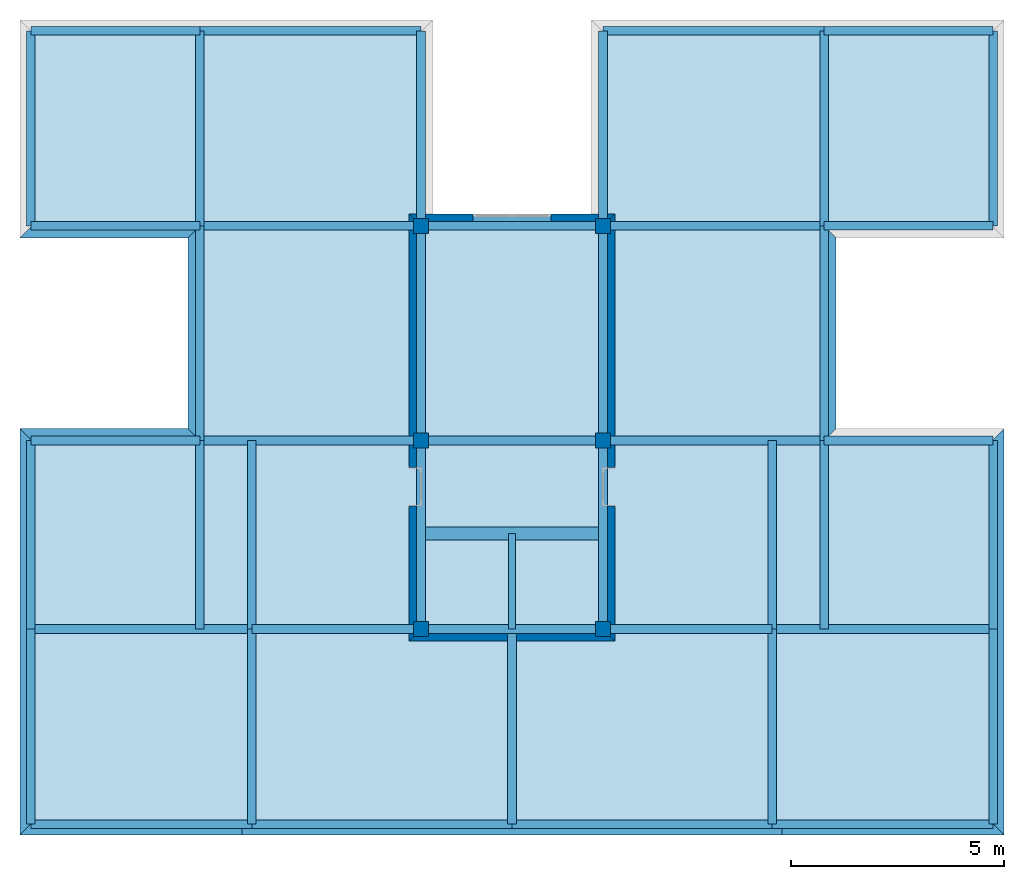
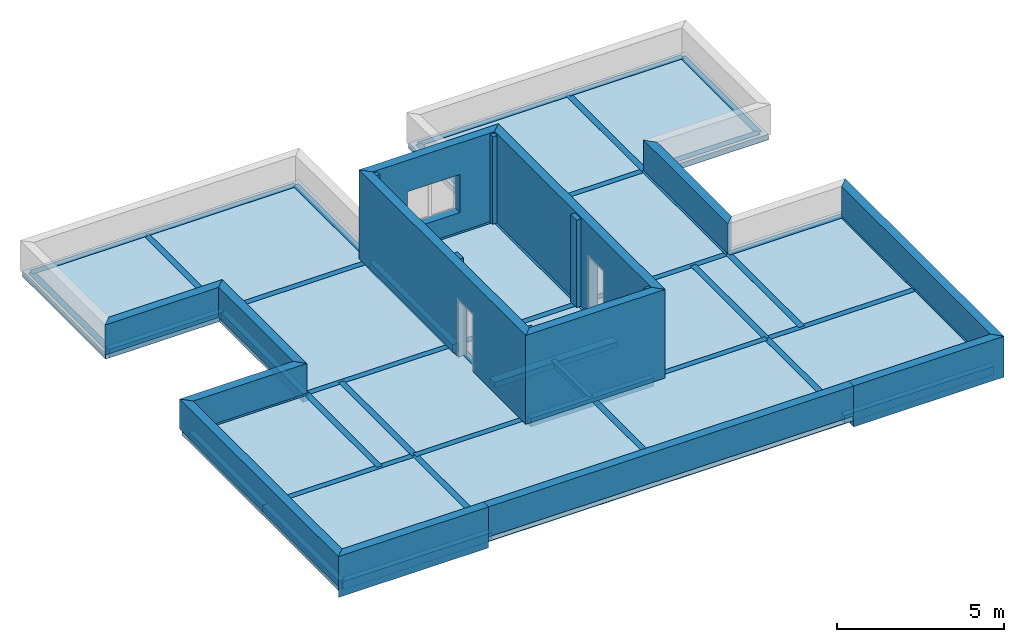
# One storey, part 1 of 3: 48 beams, 13 walls, 6 columns, 1 slab, 3 openings.
"""IFC2X3 building model written with IfcOpenShell, lengths in millimetres."""

from ifc_helpers import new_model, entity, si_unit, converted_unit, direction, frame, frame_2d, origin_with_axes, origin_2d_with_axis, place, context, subcontext, project, spatial, polyline, rectangle, outline, extrude, material, layer, layer_set, layer_usage, type_object, element, save


model = new_model("IFC2X3")

# Units and contexts
model_context = context("Model", 3, precision=1e-05, world=origin_with_axes(), true_north=direction((0.0, 1.0)))
body_context = subcontext(model_context, "Body", "Model", "MODEL_VIEW")
ifc_project = project(units=[si_unit("LENGTHUNIT", "METRE", prefix="MILLI"), si_unit("AREAUNIT", "SQUARE_METRE"), si_unit("VOLUMEUNIT", "CUBIC_METRE"), converted_unit("PLANEANGLEUNIT", "DEGREE", entity("IfcPlaneAngleMeasure", 0.017453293), si_unit("PLANEANGLEUNIT", "RADIAN"), dimensions=[0, 0, 0, 0, 0, 0, 0]), si_unit("SOLIDANGLEUNIT", "STERADIAN"), si_unit("MASSUNIT", "GRAM"), si_unit("TIMEUNIT", "SECOND"), si_unit("THERMODYNAMICTEMPERATUREUNIT", "DEGREE_CELSIUS"), si_unit("LUMINOUSINTENSITYUNIT", "LUMEN")], contexts=[model_context])

# Site, building, storey
site_placement = place(None, origin_with_axes())
site = spatial("IfcSite", under=ifc_project, at=site_placement, Name="Sitio", CompositionType="ELEMENT")
building_placement = place(site_placement, origin_with_axes())
building = spatial("IfcBuilding", under=site, at=building_placement, Name="Ejemplo_StruBIM", CompositionType="ELEMENT")
storey_placement = place(building_placement, frame((0.0, 0.0, 16002.0), z_axis=(0.0, 0.0, 1.0), x_axis=(1.0, 0.0, 0.0)))
storey = spatial("IfcBuildingStorey", under=building, at=storey_placement, Name="Cover", CompositionType="ELEMENT", Elevation=16002.0)

# Columns
ifc_material_1 = material(Name="Hormigón armado")
column_type = type_object("IfcColumnType", Name="14\"X14\"", PredefinedType="NOTDEFINED")
for number, where, z_axis, x_axis, name in (
    (1, (13411.2, 14020.8, 0.0), (0.0, 0.0, 1.0), (1.0, 0.0, 0.0), "P21"),
    (2, (13411.2, 4572.0, 0.0), (0.0, 0.0, 1.0), (1.0, 0.0, 0.0), "P9"),
    (3, (9144.0, 14020.8, 0.0), (0.0, 0.0, 1.0), (1.0, 0.0, 0.0), "P20"),
    (4, (9144.0, 4572.0, 0.0), (0.0, 0.0, 1.0), (1.0, 0.0, 0.0), "P8"),
    (5, (13411.2, 8991.6, 0.0), (0.0, 0.0, 1.0), (1.0, 0.0, 0.0), "P15"),
    (6, (9144.0, 8991.6, 0.0), (0.0, 0.0, 1.0), (1.0, 0.0, 0.0), "P14"),
):
    element("IfcColumn", number, at=place(storey_placement, frame(where, z_axis=z_axis, x_axis=x_axis)), inside=storey, type_object=column_type, material=ifc_material_1, Name=name, ObjectType="14\"X14\"", context=body_context, shape_type="SweptSolid", body=[
        extrude(rectangle(XDim=355.6, YDim=355.6, at=origin_2d_with_axis()), origin_with_axes(), (0.0, 0.0, 1.0), 3200.4),
    ])

# Beams
beam_type_1 = type_object("IfcBeamType", Name="12\"X8\"", PredefinedType="NOTDEFINED")
beam_1_placement = place(storey_placement, frame((3962.4, 18592.8, 0.0), z_axis=(0.0, 0.0, 1.0), x_axis=(-1.0, 0.0, 0.0)))
element("IfcBeam", 7, at=beam_1_placement, inside=storey, type_object=beam_type_1, material=ifc_material_1, Name="Viga-028", ObjectType="12\"X8\"", context=body_context, shape_type="SweptSolid", body=[
    extrude(rectangle(XDim=304.8, YDim=203.2, at=frame_2d((-152.4, 0.0), x_axis=(1.0, 0.0))), frame((0.0, 0.0, 0.0), z_axis=(0.0, 1.0, 0.0), x_axis=(0.0, 0.0, 1.0)), (0.0, 0.0, 1.0), 4572.0),
])
beam_2_placement = place(storey_placement, frame((3962.4, 18592.8, 0.0), z_axis=(0.0, 0.0, 1.0), x_axis=(0.0, -1.0, 0.0)))
element("IfcBeam", 8, at=beam_2_placement, inside=storey, type_object=beam_type_1, material=ifc_material_1, Name="Viga-028", ObjectType="12\"X8\"", context=body_context, shape_type="SweptSolid", body=[
    extrude(rectangle(XDim=304.8, YDim=203.2, at=frame_2d((-152.4, 0.0), x_axis=(1.0, 0.0))), frame((0.0, 0.0, 0.0), z_axis=(0.0, 1.0, 0.0), x_axis=(0.0, 0.0, 1.0)), (0.0, 0.0, 1.0), 5181.6),
])
beam_3_placement = place(storey_placement, frame((3962.4, 18592.8, 0.0), z_axis=(0.0, 0.0, 1.0), x_axis=(0.0, 1.0, 0.0)))
element("IfcBeam", 9, at=beam_3_placement, inside=storey, type_object=beam_type_1, material=ifc_material_1, Name="Viga-029", ObjectType="12\"X8\"", context=body_context, shape_type="SweptSolid", body=[
    extrude(rectangle(XDim=304.8, YDim=203.2, at=frame_2d((-152.4, 0.0), x_axis=(1.0, 0.0))), frame((0.0, 0.0, 0.0), z_axis=(0.0, 1.0, 0.0), x_axis=(0.0, 0.0, 1.0)), (0.0, 0.0, 1.0), 3962.4),
])
beam_4_placement = place(storey_placement, frame((0.0, 18592.8, 0.0), z_axis=(0.0, 0.0, 1.0), x_axis=(-1.0, 0.0, 0.0)))
element("IfcBeam", 10, at=beam_4_placement, inside=storey, type_object=beam_type_1, material=ifc_material_1, Name="Viga-030", ObjectType="12\"X8\"", context=body_context, shape_type="SweptSolid", body=[
    extrude(rectangle(XDim=304.8, YDim=203.2, at=frame_2d((-152.4, 0.0), x_axis=(1.0, 0.0))), frame((0.0, 0.0, 0.0), z_axis=(0.0, 1.0, 0.0), x_axis=(0.0, 0.0, 1.0)), (0.0, 0.0, 1.0), 4572.0),
])
beam_5_placement = place(storey_placement, frame((0.0, 14020.8, 0.0), z_axis=(0.0, 0.0, 1.0), x_axis=(0.0, -1.0, 0.0)))
element("IfcBeam", 11, at=beam_5_placement, inside=storey, type_object=beam_type_1, material=ifc_material_1, Name="Viga-031", ObjectType="12\"X8\"", context=body_context, shape_type="SweptSolid", body=[
    extrude(rectangle(XDim=304.8, YDim=203.2, at=frame_2d((-152.4, 0.0), x_axis=(1.0, 0.0))), frame((0.0, 0.0, 0.0), z_axis=(0.0, 1.0, 0.0), x_axis=(0.0, 0.0, 1.0)), (0.0, 0.0, 1.0), 3962.4),
])
beam_6_placement = place(storey_placement, frame((3962.4, 14020.8, 0.0), z_axis=(0.0, 0.0, 1.0), x_axis=(0.0, -1.0, 0.0)))
element("IfcBeam", 12, at=beam_6_placement, inside=storey, type_object=beam_type_1, material=ifc_material_1, Name="Viga-032", ObjectType="12\"X8\"", context=body_context, shape_type="SweptSolid", body=[
    extrude(rectangle(XDim=304.8, YDim=203.2, at=frame_2d((-152.4, 0.0), x_axis=(1.0, 0.0))), frame((0.0, 0.0, 0.0), z_axis=(0.0, 1.0, 0.0), x_axis=(0.0, 0.0, 1.0)), (0.0, 0.0, 1.0), 5181.6),
])
beam_7_placement = place(storey_placement, frame((9144.0, 14020.8, 0.0), z_axis=(0.0, 0.0, 1.0), x_axis=(1.0, 0.0, 0.0)))
element("IfcBeam", 13, at=beam_7_placement, inside=storey, type_object=beam_type_1, material=ifc_material_1, Name="Viga-033", ObjectType="12\"X8\"", context=body_context, shape_type="SweptSolid", body=[
    extrude(rectangle(XDim=304.8, YDim=203.2, at=frame_2d((-152.4, 0.0), x_axis=(1.0, 0.0))), frame((0.0, 0.0, 0.0), z_axis=(0.0, 1.0, 0.0), x_axis=(0.0, 0.0, 1.0)), (0.0, 0.0, 1.0), 4572.0),
])
for number, where, z_axis, x_axis, name in (
    (14, (9144.0, 8991.6, 0.0), (0.0, 0.0, 1.0), (1.0, 0.0, 0.0), "Viga-034"),
    (15, (3962.4, 14020.8, 0.0), (0.0, 0.0, 1.0), (-1.0, 0.0, 0.0), "Viga-035"),
):
    element("IfcBeam", number, at=place(storey_placement, frame(where, z_axis=z_axis, x_axis=x_axis)), inside=storey, type_object=beam_type_1, material=ifc_material_1, Name=name, ObjectType="12\"X8\"", context=body_context, shape_type="SweptSolid", body=[
        extrude(rectangle(XDim=304.8, YDim=203.2, at=frame_2d((-152.4, 0.0), x_axis=(1.0, 0.0))), frame((0.0, 0.0, 0.0), z_axis=(0.0, 1.0, 0.0), x_axis=(0.0, 0.0, 1.0)), (0.0, 0.0, 1.0), 5029.2),
    ])
beam_8_placement = place(storey_placement, frame((0.0, 8991.6, 0.0), z_axis=(0.0, 0.0, 1.0), x_axis=(0.0, -1.0, 0.0)))
element("IfcBeam", 16, at=beam_8_placement, inside=storey, type_object=beam_type_1, material=ifc_material_1, Name="Viga-037", ObjectType="12\"X8\"", context=body_context, shape_type="SweptSolid", body=[
    extrude(rectangle(XDim=304.8, YDim=203.2, at=frame_2d((-152.4, 0.0), x_axis=(1.0, 0.0))), frame((0.0, 0.0, 0.0), z_axis=(0.0, 1.0, 0.0), x_axis=(0.0, 0.0, 1.0)), (0.0, 0.0, 1.0), 3962.4),
])
beam_9_placement = place(storey_placement, frame((3962.4, 8991.6, 0.0), z_axis=(0.0, 0.0, 1.0), x_axis=(0.0, -1.0, 0.0)))
element("IfcBeam", 17, at=beam_9_placement, inside=storey, type_object=beam_type_1, material=ifc_material_1, Name="Viga-038", ObjectType="12\"X8\"", context=body_context, shape_type="SweptSolid", body=[
    extrude(rectangle(XDim=304.8, YDim=203.2, at=frame_2d((-152.4, 0.0), x_axis=(1.0, 0.0))), frame((0.0, 0.0, 0.0), z_axis=(0.0, 1.0, 0.0), x_axis=(0.0, 0.0, 1.0)), (0.0, 0.0, 1.0), 5181.6),
])
beam_10_placement = place(storey_placement, frame((9144.0, 8991.6, 0.0), z_axis=(0.0, 0.0, 1.0), x_axis=(-1.0, 0.0, 0.0)))
element("IfcBeam", 18, at=beam_10_placement, inside=storey, type_object=beam_type_1, material=ifc_material_1, Name="Viga-039", ObjectType="12\"X8\"", context=body_context, shape_type="SweptSolid", body=[
    extrude(rectangle(XDim=304.8, YDim=203.2, at=frame_2d((-152.4, 0.0), x_axis=(1.0, 0.0))), frame((0.0, 0.0, 0.0), z_axis=(0.0, 1.0, 0.0), x_axis=(0.0, 0.0, 1.0)), (0.0, 0.0, 1.0), 4419.6),
])
beam_11_placement = place(storey_placement, frame((9144.0, 4572.0, 0.0), z_axis=(0.0, 0.0, 1.0), x_axis=(0.0, 1.0, 0.0)))
element("IfcBeam", 19, at=beam_11_placement, inside=storey, type_object=beam_type_1, material=ifc_material_1, Name="Viga-040", ObjectType="12\"X8\"", context=body_context, shape_type="SweptSolid", body=[
    extrude(rectangle(XDim=304.8, YDim=203.2, at=frame_2d((-152.4, 0.0), x_axis=(1.0, 0.0))), frame((0.0, 0.0, 0.0), z_axis=(0.0, 1.0, 0.0), x_axis=(0.0, 0.0, 1.0)), (0.0, 0.0, 1.0), 3962.4),
])
beam_12_placement = place(storey_placement, frame((5181.6, 4572.0, 0.0), z_axis=(0.0, 0.0, 1.0), x_axis=(0.0, 1.0, 0.0)))
element("IfcBeam", 20, at=beam_12_placement, inside=storey, type_object=beam_type_1, material=ifc_material_1, Name="Viga-041", ObjectType="12\"X8\"", context=body_context, shape_type="SweptSolid", body=[
    extrude(rectangle(XDim=304.8, YDim=203.2, at=frame_2d((-152.4, 0.0), x_axis=(1.0, 0.0))), frame((0.0, 0.0, 0.0), z_axis=(0.0, 1.0, 0.0), x_axis=(0.0, 0.0, 1.0)), (0.0, 0.0, 1.0), 5181.6),
])
beam_13_placement = place(storey_placement, frame((0.0, 4572.0, 0.0), z_axis=(0.0, 0.0, 1.0), x_axis=(1.0, 0.0, 0.0)))
element("IfcBeam", 21, at=beam_13_placement, inside=storey, type_object=beam_type_1, material=ifc_material_1, Name="Viga-042", ObjectType="12\"X8\"", context=body_context, shape_type="SweptSolid", body=[
    extrude(rectangle(XDim=304.8, YDim=203.2, at=frame_2d((-152.4, 0.0), x_axis=(1.0, 0.0))), frame((0.0, 0.0, 0.0), z_axis=(0.0, 1.0, 0.0), x_axis=(0.0, 0.0, 1.0)), (0.0, 0.0, 1.0), 4419.6),
])
beam_14_placement = place(storey_placement, frame((0.0, 4572.0, 0.0), z_axis=(0.0, 0.0, 1.0), x_axis=(-1.0, 0.0, 0.0)))
element("IfcBeam", 22, at=beam_14_placement, inside=storey, type_object=beam_type_1, material=ifc_material_1, Name="Viga-043", ObjectType="12\"X8\"", context=body_context, shape_type="SweptSolid", body=[
    extrude(rectangle(XDim=304.8, YDim=203.2, at=frame_2d((-152.4, 0.0), x_axis=(1.0, 0.0))), frame((0.0, 0.0, 0.0), z_axis=(0.0, 1.0, 0.0), x_axis=(0.0, 0.0, 1.0)), (0.0, 0.0, 1.0), 4572.0),
])
beam_15_placement = place(storey_placement, frame((0.0, 0.0, 0.0), z_axis=(0.0, 0.0, 1.0), x_axis=(0.0, -1.0, 0.0)))
element("IfcBeam", 23, at=beam_15_placement, inside=storey, type_object=beam_type_1, material=ifc_material_1, Name="Viga-044", ObjectType="12\"X8\"", context=body_context, shape_type="SweptSolid", body=[
    extrude(rectangle(XDim=304.8, YDim=203.2, at=frame_2d((-152.4, 0.0), x_axis=(1.0, 0.0))), frame((0.0, 0.0, 0.0), z_axis=(0.0, 1.0, 0.0), x_axis=(0.0, 0.0, 1.0)), (0.0, 0.0, 1.0), 5181.6),
])
beam_16_placement = place(storey_placement, frame((5181.6, 0.0, 0.0), z_axis=(0.0, 0.0, 1.0), x_axis=(0.0, -1.0, 0.0)))
element("IfcBeam", 24, at=beam_16_placement, inside=storey, type_object=beam_type_1, material=ifc_material_1, Name="Viga-045", ObjectType="12\"X8\"", context=body_context, shape_type="SweptSolid", body=[
    extrude(rectangle(XDim=304.8, YDim=203.2, at=frame_2d((-152.4, 0.0), x_axis=(1.0, 0.0))), frame((0.0, 0.0, 0.0), z_axis=(0.0, 1.0, 0.0), x_axis=(0.0, 0.0, 1.0)), (0.0, 0.0, 1.0), 6096.0),
])
for number, where, z_axis, x_axis, name in (
    (25, (5181.6, 0.0, 0.0), (0.0, 0.0, 1.0), (1.0, 0.0, 0.0), "Viga-046"),
    (26, (18592.8, 18592.8, 0.0), (0.0, 0.0, 1.0), (-1.0, 0.0, 0.0), "Viga-028"),
):
    element("IfcBeam", number, at=place(storey_placement, frame(where, z_axis=z_axis, x_axis=x_axis)), inside=storey, type_object=beam_type_1, material=ifc_material_1, Name=name, ObjectType="12\"X8\"", context=body_context, shape_type="SweptSolid", body=[
        extrude(rectangle(XDim=304.8, YDim=203.2, at=frame_2d((-152.4, 0.0), x_axis=(1.0, 0.0))), frame((0.0, 0.0, 0.0), z_axis=(0.0, 1.0, 0.0), x_axis=(0.0, 0.0, 1.0)), (0.0, 0.0, 1.0), 4572.0),
    ])
beam_17_placement = place(storey_placement, frame((18592.8, 18592.8, 0.0), z_axis=(0.0, 0.0, 1.0), x_axis=(0.0, 1.0, 0.0)))
element("IfcBeam", 27, at=beam_17_placement, inside=storey, type_object=beam_type_1, material=ifc_material_1, Name="Viga-028", ObjectType="12\"X8\"", context=body_context, shape_type="SweptSolid", body=[
    extrude(rectangle(XDim=304.8, YDim=203.2, at=frame_2d((-152.4, 0.0), x_axis=(1.0, 0.0))), frame((0.0, 0.0, 0.0), z_axis=(0.0, 1.0, 0.0), x_axis=(0.0, 0.0, 1.0)), (0.0, 0.0, 1.0), 5181.6),
])
beam_18_placement = place(storey_placement, frame((18592.8, 18592.8, 0.0), z_axis=(0.0, 0.0, 1.0), x_axis=(0.0, -1.0, 0.0)))
element("IfcBeam", 28, at=beam_18_placement, inside=storey, type_object=beam_type_1, material=ifc_material_1, Name="Viga-029", ObjectType="12\"X8\"", context=body_context, shape_type="SweptSolid", body=[
    extrude(rectangle(XDim=304.8, YDim=203.2, at=frame_2d((-152.4, 0.0), x_axis=(1.0, 0.0))), frame((0.0, 0.0, 0.0), z_axis=(0.0, 1.0, 0.0), x_axis=(0.0, 0.0, 1.0)), (0.0, 0.0, 1.0), 3962.4),
])
beam_19_placement = place(storey_placement, frame((22555.2, 18592.8, 0.0), z_axis=(0.0, 0.0, 1.0), x_axis=(-1.0, 0.0, 0.0)))
element("IfcBeam", 29, at=beam_19_placement, inside=storey, type_object=beam_type_1, material=ifc_material_1, Name="Viga-030", ObjectType="12\"X8\"", context=body_context, shape_type="SweptSolid", body=[
    extrude(rectangle(XDim=304.8, YDim=203.2, at=frame_2d((-152.4, 0.0), x_axis=(1.0, 0.0))), frame((0.0, 0.0, 0.0), z_axis=(0.0, 1.0, 0.0), x_axis=(0.0, 0.0, 1.0)), (0.0, 0.0, 1.0), 4572.0),
])
beam_20_placement = place(storey_placement, frame((22555.2, 14020.8, 0.0), z_axis=(0.0, 0.0, 1.0), x_axis=(0.0, 1.0, 0.0)))
element("IfcBeam", 30, at=beam_20_placement, inside=storey, type_object=beam_type_1, material=ifc_material_1, Name="Viga-031", ObjectType="12\"X8\"", context=body_context, shape_type="SweptSolid", body=[
    extrude(rectangle(XDim=304.8, YDim=203.2, at=frame_2d((-152.4, 0.0), x_axis=(1.0, 0.0))), frame((0.0, 0.0, 0.0), z_axis=(0.0, 1.0, 0.0), x_axis=(0.0, 0.0, 1.0)), (0.0, 0.0, 1.0), 3962.4),
])
beam_21_placement = place(storey_placement, frame((18592.8, 14020.8, 0.0), z_axis=(0.0, 0.0, 1.0), x_axis=(0.0, 1.0, 0.0)))
element("IfcBeam", 31, at=beam_21_placement, inside=storey, type_object=beam_type_1, material=ifc_material_1, Name="Viga-032", ObjectType="12\"X8\"", context=body_context, shape_type="SweptSolid", body=[
    extrude(rectangle(XDim=304.8, YDim=203.2, at=frame_2d((-152.4, 0.0), x_axis=(1.0, 0.0))), frame((0.0, 0.0, 0.0), z_axis=(0.0, 1.0, 0.0), x_axis=(0.0, 0.0, 1.0)), (0.0, 0.0, 1.0), 5181.6),
])
beam_22_placement = place(storey_placement, frame((13411.2, 14020.8, 0.0), z_axis=(0.0, 0.0, 1.0), x_axis=(1.0, 0.0, 0.0)))
element("IfcBeam", 32, at=beam_22_placement, inside=storey, type_object=beam_type_1, material=ifc_material_1, Name="Viga-033", ObjectType="12\"X8\"", context=body_context, shape_type="SweptSolid", body=[
    extrude(rectangle(XDim=304.8, YDim=203.2, at=frame_2d((-152.4, 0.0), x_axis=(1.0, 0.0))), frame((0.0, 0.0, 0.0), z_axis=(0.0, 1.0, 0.0), x_axis=(0.0, 0.0, 1.0)), (0.0, 0.0, 1.0), 4572.0),
])
for number, where, z_axis, x_axis, name in (
    (33, (13411.2, 8991.6, 0.0), (0.0, 0.0, 1.0), (1.0, 0.0, 0.0), "Viga-034"),
    (34, (18592.8, 14020.8, 0.0), (0.0, 0.0, 1.0), (-1.0, 0.0, 0.0), "Viga-035"),
):
    element("IfcBeam", number, at=place(storey_placement, frame(where, z_axis=z_axis, x_axis=x_axis)), inside=storey, type_object=beam_type_1, material=ifc_material_1, Name=name, ObjectType="12\"X8\"", context=body_context, shape_type="SweptSolid", body=[
        extrude(rectangle(XDim=304.8, YDim=203.2, at=frame_2d((-152.4, 0.0), x_axis=(1.0, 0.0))), frame((0.0, 0.0, 0.0), z_axis=(0.0, 1.0, 0.0), x_axis=(0.0, 0.0, 1.0)), (0.0, 0.0, 1.0), 5029.2),
    ])
beam_23_placement = place(storey_placement, frame((22555.2, 8991.6, 0.0), z_axis=(0.0, 0.0, 1.0), x_axis=(0.0, 1.0, 0.0)))
element("IfcBeam", 35, at=beam_23_placement, inside=storey, type_object=beam_type_1, material=ifc_material_1, Name="Viga-037", ObjectType="12\"X8\"", context=body_context, shape_type="SweptSolid", body=[
    extrude(rectangle(XDim=304.8, YDim=203.2, at=frame_2d((-152.4, 0.0), x_axis=(1.0, 0.0))), frame((0.0, 0.0, 0.0), z_axis=(0.0, 1.0, 0.0), x_axis=(0.0, 0.0, 1.0)), (0.0, 0.0, 1.0), 3962.4),
])
beam_24_placement = place(storey_placement, frame((18592.8, 8991.6, 0.0), z_axis=(0.0, 0.0, 1.0), x_axis=(0.0, 1.0, 0.0)))
element("IfcBeam", 36, at=beam_24_placement, inside=storey, type_object=beam_type_1, material=ifc_material_1, Name="Viga-038", ObjectType="12\"X8\"", context=body_context, shape_type="SweptSolid", body=[
    extrude(rectangle(XDim=304.8, YDim=203.2, at=frame_2d((-152.4, 0.0), x_axis=(1.0, 0.0))), frame((0.0, 0.0, 0.0), z_axis=(0.0, 1.0, 0.0), x_axis=(0.0, 0.0, 1.0)), (0.0, 0.0, 1.0), 5181.6),
])
beam_25_placement = place(storey_placement, frame((13411.2, 8991.6, 0.0), z_axis=(0.0, 0.0, 1.0), x_axis=(-1.0, 0.0, 0.0)))
element("IfcBeam", 37, at=beam_25_placement, inside=storey, type_object=beam_type_1, material=ifc_material_1, Name="Viga-039", ObjectType="12\"X8\"", context=body_context, shape_type="SweptSolid", body=[
    extrude(rectangle(XDim=304.8, YDim=203.2, at=frame_2d((-152.4, 0.0), x_axis=(1.0, 0.0))), frame((0.0, 0.0, 0.0), z_axis=(0.0, 1.0, 0.0), x_axis=(0.0, 0.0, 1.0)), (0.0, 0.0, 1.0), 4419.6),
])
beam_26_placement = place(storey_placement, frame((13411.2, 4572.0, 0.0), z_axis=(0.0, 0.0, 1.0), x_axis=(0.0, -1.0, 0.0)))
element("IfcBeam", 38, at=beam_26_placement, inside=storey, type_object=beam_type_1, material=ifc_material_1, Name="Viga-040", ObjectType="12\"X8\"", context=body_context, shape_type="SweptSolid", body=[
    extrude(rectangle(XDim=304.8, YDim=203.2, at=frame_2d((-152.4, 0.0), x_axis=(1.0, 0.0))), frame((0.0, 0.0, 0.0), z_axis=(0.0, 1.0, 0.0), x_axis=(0.0, 0.0, 1.0)), (0.0, 0.0, 1.0), 3962.4),
])
beam_27_placement = place(storey_placement, frame((17373.6, 4572.0, 0.0), z_axis=(0.0, 0.0, 1.0), x_axis=(0.0, -1.0, 0.0)))
element("IfcBeam", 39, at=beam_27_placement, inside=storey, type_object=beam_type_1, material=ifc_material_1, Name="Viga-041", ObjectType="12\"X8\"", context=body_context, shape_type="SweptSolid", body=[
    extrude(rectangle(XDim=304.8, YDim=203.2, at=frame_2d((-152.4, 0.0), x_axis=(1.0, 0.0))), frame((0.0, 0.0, 0.0), z_axis=(0.0, 1.0, 0.0), x_axis=(0.0, 0.0, 1.0)), (0.0, 0.0, 1.0), 5181.6),
])
beam_28_placement = place(storey_placement, frame((22555.2, 4572.0, 0.0), z_axis=(0.0, 0.0, 1.0), x_axis=(1.0, 0.0, 0.0)))
element("IfcBeam", 40, at=beam_28_placement, inside=storey, type_object=beam_type_1, material=ifc_material_1, Name="Viga-042", ObjectType="12\"X8\"", context=body_context, shape_type="SweptSolid", body=[
    extrude(rectangle(XDim=304.8, YDim=203.2, at=frame_2d((-152.4, 0.0), x_axis=(1.0, 0.0))), frame((0.0, 0.0, 0.0), z_axis=(0.0, 1.0, 0.0), x_axis=(0.0, 0.0, 1.0)), (0.0, 0.0, 1.0), 4419.6),
])
beam_29_placement = place(storey_placement, frame((22555.2, 4572.0, 0.0), z_axis=(0.0, 0.0, 1.0), x_axis=(-1.0, 0.0, 0.0)))
element("IfcBeam", 41, at=beam_29_placement, inside=storey, type_object=beam_type_1, material=ifc_material_1, Name="Viga-043", ObjectType="12\"X8\"", context=body_context, shape_type="SweptSolid", body=[
    extrude(rectangle(XDim=304.8, YDim=203.2, at=frame_2d((-152.4, 0.0), x_axis=(1.0, 0.0))), frame((0.0, 0.0, 0.0), z_axis=(0.0, 1.0, 0.0), x_axis=(0.0, 0.0, 1.0)), (0.0, 0.0, 1.0), 4572.0),
])
beam_30_placement = place(storey_placement, frame((22555.2, 0.0, 0.0), z_axis=(0.0, 0.0, 1.0), x_axis=(0.0, 1.0, 0.0)))
element("IfcBeam", 42, at=beam_30_placement, inside=storey, type_object=beam_type_1, material=ifc_material_1, Name="Viga-044", ObjectType="12\"X8\"", context=body_context, shape_type="SweptSolid", body=[
    extrude(rectangle(XDim=304.8, YDim=203.2, at=frame_2d((-152.4, 0.0), x_axis=(1.0, 0.0))), frame((0.0, 0.0, 0.0), z_axis=(0.0, 1.0, 0.0), x_axis=(0.0, 0.0, 1.0)), (0.0, 0.0, 1.0), 5181.6),
])
beam_31_placement = place(storey_placement, frame((17373.6, 0.0, 0.0), z_axis=(0.0, 0.0, 1.0), x_axis=(0.0, 1.0, 0.0)))
element("IfcBeam", 43, at=beam_31_placement, inside=storey, type_object=beam_type_1, material=ifc_material_1, Name="Viga-045", ObjectType="12\"X8\"", context=body_context, shape_type="SweptSolid", body=[
    extrude(rectangle(XDim=304.8, YDim=203.2, at=frame_2d((-152.4, 0.0), x_axis=(1.0, 0.0))), frame((0.0, 0.0, 0.0), z_axis=(0.0, 1.0, 0.0), x_axis=(0.0, 0.0, 1.0)), (0.0, 0.0, 1.0), 6096.0),
])
beam_32_placement = place(storey_placement, frame((17373.6, 0.0, 0.0), z_axis=(0.0, 0.0, 1.0), x_axis=(1.0, 0.0, 0.0)))
element("IfcBeam", 44, at=beam_32_placement, inside=storey, type_object=beam_type_1, material=ifc_material_1, Name="Viga-046", ObjectType="12\"X8\"", context=body_context, shape_type="SweptSolid", body=[
    extrude(rectangle(XDim=304.8, YDim=203.2, at=frame_2d((-152.4, 0.0), x_axis=(1.0, 0.0))), frame((0.0, 0.0, 0.0), z_axis=(0.0, 1.0, 0.0), x_axis=(0.0, 0.0, 1.0)), (0.0, 0.0, 1.0), 4572.0),
])
beam_33_placement = place(storey_placement, frame((13411.2, 4572.0, 0.0), z_axis=(0.0, 0.0, 1.0), x_axis=(0.0, 1.0, 0.0)))
element("IfcBeam", 45, at=beam_33_placement, inside=storey, type_object=beam_type_1, material=ifc_material_1, Name="Viga-047", ObjectType="12\"X8\"", context=body_context, shape_type="SweptSolid", body=[
    extrude(rectangle(XDim=304.8, YDim=203.2, at=frame_2d((-152.4, 0.0), x_axis=(1.0, 0.0))), frame((0.0, 0.0, 0.0), z_axis=(0.0, 1.0, 0.0), x_axis=(0.0, 0.0, 1.0)), (0.0, 0.0, 1.0), 4267.2),
])
beam_34_placement = place(storey_placement, frame((11277.6, 4572.0, 0.0), z_axis=(0.0, 0.0, 1.0), x_axis=(-1.0, 0.0, 0.0)))
element("IfcBeam", 46, at=beam_34_placement, inside=storey, type_object=beam_type_1, material=ifc_material_1, Name="Viga-048", ObjectType="12\"X8\"", context=body_context, shape_type="SweptSolid", body=[
    extrude(rectangle(XDim=304.8, YDim=203.2, at=frame_2d((-152.4, 0.0), x_axis=(1.0, 0.0))), frame((0.0, 0.0, 0.0), z_axis=(0.0, 1.0, 0.0), x_axis=(0.0, 0.0, 1.0)), (0.0, 0.0, 1.0), 4572.0),
])
for number, where, z_axis, x_axis, name in (
    (47, (9144.0, 8991.6, 0.0), (0.0, 0.0, 1.0), (0.0, -1.0, 0.0), "Viga-049"),
    (48, (13411.2, 14020.8, 0.0), (0.0, 0.0, 1.0), (0.0, 1.0, 0.0), "Viga-050"),
):
    element("IfcBeam", number, at=place(storey_placement, frame(where, z_axis=z_axis, x_axis=x_axis)), inside=storey, type_object=beam_type_1, material=ifc_material_1, Name=name, ObjectType="12\"X8\"", context=body_context, shape_type="SweptSolid", body=[
        extrude(rectangle(XDim=304.8, YDim=203.2, at=frame_2d((-152.4, 0.0), x_axis=(1.0, 0.0))), frame((0.0, 0.0, 0.0), z_axis=(0.0, 1.0, 0.0), x_axis=(0.0, 0.0, 1.0)), (0.0, 0.0, 1.0), 4267.2),
    ])
for number, where, z_axis, x_axis, name in (
    (49, (17373.6, 4572.0, 0.0), (0.0, 0.0, 1.0), (1.0, 0.0, 0.0), "Viga-040"),
    (50, (18592.8, 8991.6, 0.0), (0.0, 0.0, 1.0), (-1.0, 0.0, 0.0), "Viga-041"),
    (51, (5181.6, 4572.0, 0.0), (0.0, 0.0, 1.0), (1.0, 0.0, 0.0), "Viga-042"),
    (52, (3962.4, 8991.6, 0.0), (0.0, 0.0, 1.0), (-1.0, 0.0, 0.0), "Viga-043"),
):
    element("IfcBeam", number, at=place(storey_placement, frame(where, z_axis=z_axis, x_axis=x_axis)), inside=storey, type_object=beam_type_1, material=ifc_material_1, Name=name, ObjectType="12\"X8\"", context=body_context, shape_type="SweptSolid", body=[
        extrude(rectangle(XDim=304.8, YDim=203.2, at=frame_2d((-152.4, 0.0), x_axis=(1.0, 0.0))), frame((0.0, 0.0, 0.0), z_axis=(0.0, 1.0, 0.0), x_axis=(0.0, 0.0, 1.0)), (0.0, 0.0, 1.0), 4419.6),
    ])
beam_type_2 = type_object("IfcBeamType", Name="8\"X12\"", PredefinedType="NOTDEFINED")
beam_35_placement = place(storey_placement, frame((9144.0, 6807.2, 0.0), z_axis=(0.0, 0.0, 1.0), x_axis=(0.0, -1.0, 0.0)))
element("IfcBeam", 53, at=beam_35_placement, inside=storey, type_object=beam_type_2, material=ifc_material_1, Name="Viga-036", ObjectType="8\"X12\"", context=body_context, shape_type="SweptSolid", body=[
    extrude(rectangle(XDim=203.2, YDim=304.8, at=frame_2d((-101.6, 0.0), x_axis=(1.0, 0.0))), frame((0.0, 0.0, 0.0), z_axis=(0.0, 1.0, 0.0), x_axis=(0.0, 0.0, 1.0)), (0.0, 0.0, 1.0), 4267.2),
])
beam_type_3 = type_object("IfcBeamType", Name="8\"X6\"", PredefinedType="NOTDEFINED")
beam_36_placement = place(storey_placement, frame((11277.6, 4572.0, 0.0), z_axis=(0.0, 0.0, 1.0), x_axis=(1.0, 0.0, 0.0)))
element("IfcBeam", 54, at=beam_36_placement, inside=storey, type_object=beam_type_3, material=ifc_material_1, Name="Viga-035", ObjectType="8\"X6\"", context=body_context, shape_type="SweptSolid", body=[
    extrude(rectangle(XDim=203.2, YDim=152.4, at=frame_2d((-101.6, 0.0), x_axis=(1.0, 0.0))), frame((0.0, 0.0, 0.0), z_axis=(0.0, 1.0, 0.0), x_axis=(0.0, 0.0, 1.0)), (0.0, 0.0, 1.0), 2235.2),
])

# Slab
ifc_layer_1 = layer(ifc_material_1, 203.2, ventilated="UNKNOWN")
ifc_layer_set_1 = layer_set([ifc_layer_1], Name="Hormigón armado 203.2")
ifc_layer_usage_1 = layer_usage(ifc_layer_set_1, "AXIS3", "NEGATIVE", 203.2)
slab_placement = place(storey_placement, frame((-203.2, -203.2, -203.2), z_axis=(0.0, 0.0, 1.0), x_axis=(1.0, 0.0, 0.0)))
element("IfcSlab", 55, at=slab_placement, inside=storey, material=ifc_layer_usage_1, Name="Forj-004", PredefinedType="FLOOR", context=body_context, shape_type="SweptSolid", body=[
    extrude(outline(polyline([(0.0, 0.0), (22961.6, 0.0), (22961.6, 9423.4), (19024.6, 9423.4), (19024.6, 13995.4), (22961.6, 13995.4), (22961.6, 18999.2), (13385.8, 18999.2), (13385.8, 14452.6), (9575.8, 14452.6), (9575.8, 18999.2), (0.0, 18999.2), (0.0, 13995.4), (3937.0, 13995.4), (3937.0, 9423.4), (0.0, 9423.4), (0.0, 0.0)])), origin_with_axes(), (0.0, 0.0, 1.0), 203.2),
])

# Wall, opening
ifc_material_2 = material(Name="Bloque mampostería")
ifc_layer_2 = layer(ifc_material_2, 300.0, ventilated="UNKNOWN")
ifc_layer_set_2 = layer_set([ifc_layer_2], Name="Bloque mampostería 300")
ifc_layer_usage_2 = layer_usage(ifc_layer_set_2, "AXIS2", "NEGATIVE", 0.0)
wall_type = type_object("IfcWallType", Name="Bloque mampostería 11 3/4\"", PredefinedType="NOTDEFINED")
wall_1_placement = place(storey_placement, frame((13690.6, 14300.2, 0.0), z_axis=(0.0, 0.0, 1.0), x_axis=(0.0, -1.0, 0.0)))
wall_1 = element("IfcWallStandardCase", 56, at=wall_1_placement, inside=storey, type_object=wall_type, material=ifc_layer_usage_2, Name="Muro-018", context=body_context, shape_type="SweptSolid", body=[
    extrude(outline(polyline([(300.0, -300.0), (9707.6, -300.0), (10007.6, 0.0), (0.0, 0.0), (300.0, -300.0)])), origin_with_axes(), (0.0, 0.0, 1.0), 3251.2),
])
opening_1_placement = place(wall_1_placement, frame((6393.4711, 0.0, 0.0), z_axis=(0.0, 0.0, 1.0), x_axis=(1.0, 0.0, 0.0)))
element("IfcOpeningElement", 57, at=opening_1_placement, cuts=wall_1, Name="P02", context=body_context, shape_type="SweptSolid", body=[
    extrude(rectangle(XDim=900.0, YDim=2100.0, at=origin_2d_with_axis()), frame((0.0, 0.0, 1050.0), z_axis=(0.0, -1.0, 0.0), x_axis=(1.0, 0.0, 0.0)), (0.0, 0.0, 1.0), 300.0),
    extrude(rectangle(XDim=974.0, YDim=2137.0, at=origin_2d_with_axis()), frame((0.0, 0.0, 1068.5), z_axis=(0.0, -1.0, 0.0), x_axis=(1.0, 0.0, 0.0)), (0.0, 0.0, -1.0), 300.0),
    extrude(rectangle(XDim=974.0, YDim=2137.0, at=origin_2d_with_axis()), frame((0.0, -300.0, 1068.5), z_axis=(0.0, 1.0, 0.0), x_axis=(1.0, 0.0, 0.0)), (0.0, 0.0, -1.0), 300.0),
])

ifc_layer_usage_3 = layer_usage(ifc_layer_set_2, "AXIS2", "NEGATIVE", 0.0)
wall_2_placement = place(storey_placement, frame((8864.6, 4292.6, 0.0), z_axis=(0.0, 0.0, 1.0), x_axis=(0.0, 1.0, 0.0)))
wall_2 = element("IfcWallStandardCase", 58, at=wall_2_placement, inside=storey, type_object=wall_type, material=ifc_layer_usage_3, Name="Muro-016", context=body_context, shape_type="SweptSolid", body=[
    extrude(outline(polyline([(300.0, -300.0), (9707.6, -300.0), (10007.6, 0.0), (0.0, 0.0), (300.0, -300.0)])), origin_with_axes(), (0.0, 0.0, 1.0), 3251.2),
])
opening_2_placement = place(wall_2_placement, frame((3613.8704, 0.0, 0.0), z_axis=(0.0, 0.0, 1.0), x_axis=(1.0, 0.0, 0.0)))
element("IfcOpeningElement", 59, at=opening_2_placement, cuts=wall_2, Name="P01", context=body_context, shape_type="SweptSolid", body=[
    extrude(rectangle(XDim=900.0, YDim=2100.0, at=origin_2d_with_axis()), frame((0.0, 0.0, 1050.0), z_axis=(0.0, 1.0, 0.0), x_axis=(1.0, 0.0, 0.0)), (0.0, 0.0, -1.0), 300.0),
    extrude(rectangle(XDim=974.0, YDim=2137.0, at=origin_2d_with_axis()), frame((0.0, 0.0, 1068.5), z_axis=(0.0, 1.0, 0.0), x_axis=(1.0, 0.0, 0.0)), (0.0, 0.0, 1.0), 300.0),
    extrude(rectangle(XDim=974.0, YDim=2137.0, at=origin_2d_with_axis()), frame((0.0, -300.0, 1068.5), z_axis=(0.0, -1.0, 0.0), x_axis=(1.0, 0.0, 0.0)), (0.0, 0.0, 1.0), 300.0),
])

# Walls
ifc_layer_usage_4 = layer_usage(ifc_layer_set_2, "AXIS2", "NEGATIVE", 0.0)
wall_3_placement = place(storey_placement, frame((13690.6, 4292.6, 0.0), z_axis=(0.0, 0.0, 1.0), x_axis=(-1.0, 0.0, 0.0)))
element("IfcWallStandardCase", 60, at=wall_3_placement, inside=storey, type_object=wall_type, material=ifc_layer_usage_4, Name="Muro-015", context=body_context, shape_type="SweptSolid", body=[
    extrude(outline(polyline([(300.0, -300.0), (4526.0, -300.0), (4826.0, 0.0), (0.0, 0.0), (300.0, -300.0)])), origin_with_axes(), (0.0, 0.0, 1.0), 3251.2),
])
ifc_layer_usage_5 = layer_usage(ifc_layer_set_2, "AXIS2", "NEGATIVE", 0.0)
wall_4_placement = place(storey_placement, frame((22809.2, 9271.0, 0.0), z_axis=(0.0, 0.0, 1.0), x_axis=(0.0, -1.0, 0.0)))
element("IfcWallStandardCase", 61, at=wall_4_placement, inside=storey, type_object=wall_type, material=ifc_layer_usage_5, Name="Muro-035", context=body_context, shape_type="SweptSolid", body=[
    extrude(outline(polyline([(300.0, -300.0), (9225.0, -300.0), (9525.0, 0.0), (0.0, 0.0), (300.0, -300.0)])), origin_with_axes(), (0.0, 0.0, 1.0), 1100.0),
])
ifc_layer_usage_6 = layer_usage(ifc_layer_set_2, "AXIS2", "NEGATIVE", 0.0)
wall_5_placement = place(storey_placement, frame((18872.2, 13741.4, 0.0), z_axis=(0.0, 0.0, 1.0), x_axis=(0.0, -1.0, 0.0)))
element("IfcWallStandardCase", 62, at=wall_5_placement, inside=storey, type_object=wall_type, material=ifc_layer_usage_6, Name="Muro-033", context=body_context, shape_type="SweptSolid", body=[
    extrude(outline(polyline([(-300.0, -300.0), (4770.4, -300.0), (4470.4, 0.0), (0.0, 0.0), (-300.0, -300.0)])), origin_with_axes(), (0.0, 0.0, 1.0), 1100.0),
])

# Wall, opening
ifc_layer_usage_7 = layer_usage(ifc_layer_set_2, "AXIS2", "NEGATIVE", 0.0)
wall_6_placement = place(storey_placement, frame((8864.6, 14300.2, 0.0), z_axis=(0.0, 0.0, 1.0), x_axis=(1.0, 0.0, 0.0)))
wall_6 = element("IfcWallStandardCase", 63, at=wall_6_placement, inside=storey, type_object=wall_type, material=ifc_layer_usage_7, Name="Muro-017", context=body_context, shape_type="SweptSolid", body=[
    extrude(outline(polyline([(300.0, -300.0), (4526.0, -300.0), (4826.0, 0.0), (0.0, 0.0), (300.0, -300.0)])), origin_with_axes(), (0.0, 0.0, 1.0), 3251.2),
])
opening_3_placement = place(wall_6_placement, frame((2413.0, 0.0, 700.0), z_axis=(0.0, 0.0, 1.0), x_axis=(1.0, 0.0, 0.0)))
element("IfcOpeningElement", 64, at=opening_3_placement, cuts=wall_6, Name="V22", context=body_context, shape_type="SweptSolid", body=[
    extrude(rectangle(XDim=1820.0, YDim=1400.0, at=origin_2d_with_axis()), frame((0.0, -300.0, 700.0), z_axis=(0.0, 1.0, 0.0), x_axis=(1.0, 0.0, 0.0)), (0.0, 0.0, 1.0), 300.0),
])

# Walls
ifc_layer_usage_8 = layer_usage(ifc_layer_set_2, "AXIS2", "NEGATIVE", 0.0)
wall_7_placement = place(storey_placement, frame((3683.0, 13741.4, 0.0), z_axis=(0.0, 0.0, 1.0), x_axis=(-1.0, 0.0, 0.0)))
element("IfcWallStandardCase", 65, at=wall_7_placement, inside=storey, type_object=wall_type, material=ifc_layer_usage_8, Name="Muro-024", context=body_context, shape_type="SweptSolid", body=[
    extrude(outline(polyline([(-300.0, -300.0), (3637.0, -300.0), (3937.0, 0.0), (0.0, 0.0), (-300.0, -300.0)])), origin_with_axes(), (0.0, 0.0, 1.0), 1100.0),
])
ifc_layer_usage_9 = layer_usage(ifc_layer_set_2, "AXIS2", "NEGATIVE", 0.0)
wall_8_placement = place(storey_placement, frame((3683.0, 9271.0, 0.0), z_axis=(0.0, 0.0, 1.0), x_axis=(0.0, 1.0, 0.0)))
element("IfcWallStandardCase", 66, at=wall_8_placement, inside=storey, type_object=wall_type, material=ifc_layer_usage_9, Name="Muro-023", context=body_context, shape_type="SweptSolid", body=[
    extrude(outline(polyline([(-300.0, -300.0), (4770.4, -300.0), (4470.4, 0.0), (0.0, 0.0), (-300.0, -300.0)])), origin_with_axes(), (0.0, 0.0, 1.0), 1100.0),
])
ifc_layer_usage_10 = layer_usage(ifc_layer_set_2, "AXIS2", "NEGATIVE", 0.0)
wall_9_placement = place(storey_placement, frame((-254.0, 9271.0, 0.0), z_axis=(0.0, 0.0, 1.0), x_axis=(1.0, 0.0, 0.0)))
element("IfcWallStandardCase", 67, at=wall_9_placement, inside=storey, type_object=wall_type, material=ifc_layer_usage_10, Name="Muro-022", context=body_context, shape_type="SweptSolid", body=[
    extrude(outline(polyline([(300.0, -300.0), (4237.0, -300.0), (3937.0, 0.0), (0.0, 0.0), (300.0, -300.0)])), origin_with_axes(), (0.0, 0.0, 1.0), 1100.0),
])
ifc_layer_usage_11 = layer_usage(ifc_layer_set_2, "AXIS2", "NEGATIVE", 0.0)
wall_10_placement = place(storey_placement, frame((-254.0, -254.0, 0.0), z_axis=(0.0, 0.0, 1.0), x_axis=(0.0, 1.0, 0.0)))
element("IfcWallStandardCase", 68, at=wall_10_placement, inside=storey, type_object=wall_type, material=ifc_layer_usage_11, Name="Muro-021", context=body_context, shape_type="SweptSolid", body=[
    extrude(outline(polyline([(300.0, -300.0), (9225.0, -300.0), (9525.0, 0.0), (0.0, 0.0), (300.0, -300.0)])), origin_with_axes(), (0.0, 0.0, 1.0), 1100.0),
])
ifc_layer_usage_12 = layer_usage(ifc_layer_set_2, "AXIS2", "NEGATIVE", 0.0)
wall_11_placement = place(storey_placement, frame((4953.0, -254.0, -400.0), z_axis=(0.0, 0.0, 1.0), x_axis=(-1.0, 0.0, 0.0)))
element("IfcWallStandardCase", 69, at=wall_11_placement, inside=storey, type_object=wall_type, material=ifc_layer_usage_12, Name="Muro-020", context=body_context, shape_type="SweptSolid", body=[
    extrude(outline(polyline([(0.0, -300.0), (4907.0, -300.0), (5207.0, 0.0), (0.0, 0.0), (0.0, -300.0)])), origin_with_axes(), (0.0, 0.0, 1.0), 1500.0),
])
ifc_layer_usage_13 = layer_usage(ifc_layer_set_2, "AXIS2", "NEGATIVE", 0.0)
wall_12_placement = place(storey_placement, frame((17602.2, -254.0, 0.0), z_axis=(0.0, 0.0, 1.0), x_axis=(-1.0, 0.0, 0.0)))
element("IfcWallStandardCase", 70, at=wall_12_placement, inside=storey, type_object=wall_type, material=ifc_layer_usage_13, Name="Muro-019", context=body_context, shape_type="SweptSolid", body=[
    extrude(outline(polyline([(0.0, -300.0), (12649.2, -300.0), (12649.2, 0.0), (0.0, 0.0), (0.0, -300.0)])), origin_with_axes(), (0.0, 0.0, 1.0), 1100.0),
])
ifc_layer_usage_14 = layer_usage(ifc_layer_set_2, "AXIS2", "NEGATIVE", 0.0)
wall_13_placement = place(storey_placement, frame((22809.2, -254.0, -400.0), z_axis=(0.0, 0.0, 1.0), x_axis=(-1.0, 0.0, 0.0)))
element("IfcWallStandardCase", 71, at=wall_13_placement, inside=storey, type_object=wall_type, material=ifc_layer_usage_14, Name="Muro-018", context=body_context, shape_type="SweptSolid", body=[
    extrude(outline(polyline([(300.0, -300.0), (5207.0, -300.0), (5207.0, 0.0), (0.0, 0.0), (300.0, -300.0)])), origin_with_axes(), (0.0, 0.0, 1.0), 1500.0),
])

save(model, "model.ifc")
